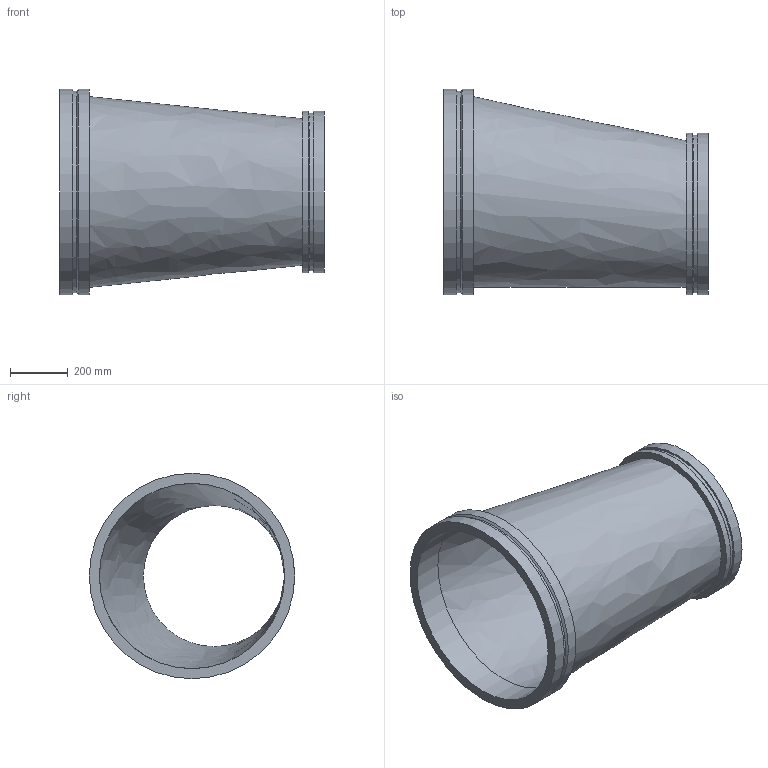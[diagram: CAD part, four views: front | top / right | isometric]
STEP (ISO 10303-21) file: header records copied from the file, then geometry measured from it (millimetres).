
FILE_DESCRIPTION(/* description */ ('VIC REDUCER ECCENTRIC No W51-VR','CAx-IF Rec.Pracs.---Representation and Presentation of Product Manufacturing Information (PMI)---4.0---2014-10-13'),/* implementation_level */ '2;1');
FILE_NAME(/* name */ 'C:\Users\kkamble\AppData\Roaming\Autodesk\ApplicationPlugins\Back Up\Victaulic_Vic-Ring_Reducer Eccentric_No W51 VR (AGR)\Victaulic_Vic-Ring_Reducer Eccentric_No W51 VR (AGR)_26.0x20.0 (650x500).stp',/* time_stamp */ '2020-09-10T11:49:34+05:00',/* author */ ('CONSTRUCTION PIPING SERVICES'),/* organization */ ('Victaulic'),/* preprocessor_version */ 'ST-DEVELOPER v17.2',/* originating_system */ 'Autodesk Inventor 2019',/* authorisation */ '');
FILE_SCHEMA (('AP242_MANAGED_MODEL_BASED_3D_ENGINEERING_MIM_LF { 1 0 10303 442 1 1 4 }'));
Length unit declared in the file: inch
Products named in the file (1): W51 VR-26.0x20.0
Bounding box: 914.4 x 711.2 x 711.2 mm (x, y, z)
Volume: 24177170.2 mm3; surface area: 3630761.8 mm2
Topology: 1 solids, 1 shells, 18 faces, 49 edges, 37 vertices
Faces by surface type: cylinder 8, plane 6, cone 2, bspline 2
Full cylindrical faces by diameter (mm): 488.95 x1, 546.1 x1, 558.8 x2, 641.35 x1, 696.722 x1, 711.2 x2
Entity records: 792 total; most frequent: CARTESIAN_POINT 158, DIRECTION 144, ORIENTED_EDGE 98, AXIS2_PLACEMENT_3D 67, EDGE_CURVE 49, CIRCLE 37, VERTEX_POINT 37, EDGE_LOOP 24
